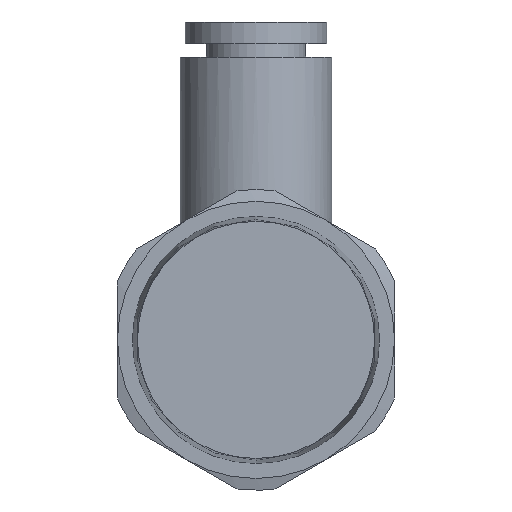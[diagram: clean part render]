
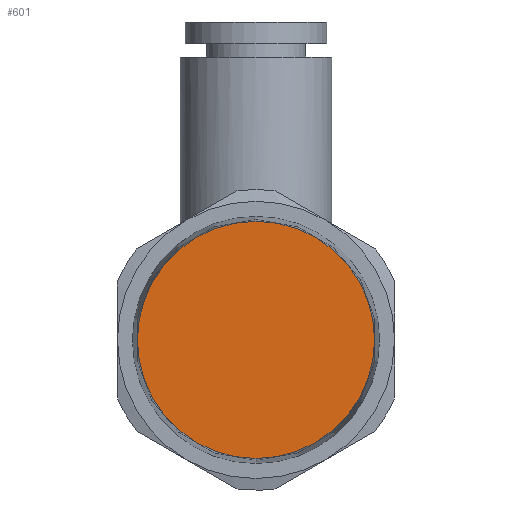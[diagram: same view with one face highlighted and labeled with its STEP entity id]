
A CAD part, front view. The second image highlights one B-rep face of the part: STEP entity #601.
In plain terms, the highlighted planar face has unit normal (0, -1, 0).
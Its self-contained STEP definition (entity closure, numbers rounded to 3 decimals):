
#57=PLANE('',#690);
#221=ORIENTED_EDGE('',*,*,#328,.T.);
#328=EDGE_CURVE('',#388,#388,#423,.T.);
#388=VERTEX_POINT('',#1147);
#423=CIRCLE('',#691,8.131);
#479=EDGE_LOOP('',(#221));
#540=FACE_BOUND('',#479,.T.);
#601=ADVANCED_FACE('',(#540),#57,.F.);
#690=AXIS2_PLACEMENT_3D('',#1145,#854,#855);
#691=AXIS2_PLACEMENT_3D('',#1146,#856,#857);
#854=DIRECTION('',(0.,1.,0.));
#855=DIRECTION('',(0.,0.,1.));
#856=DIRECTION('',(0.,-1.,0.));
#857=DIRECTION('',(0.,0.,-1.));
#1145=CARTESIAN_POINT('',(8.131,-5.2,0.));
#1146=CARTESIAN_POINT('',(0.,-5.2,0.));
#1147=CARTESIAN_POINT('',(0.,-5.2,-8.131));
